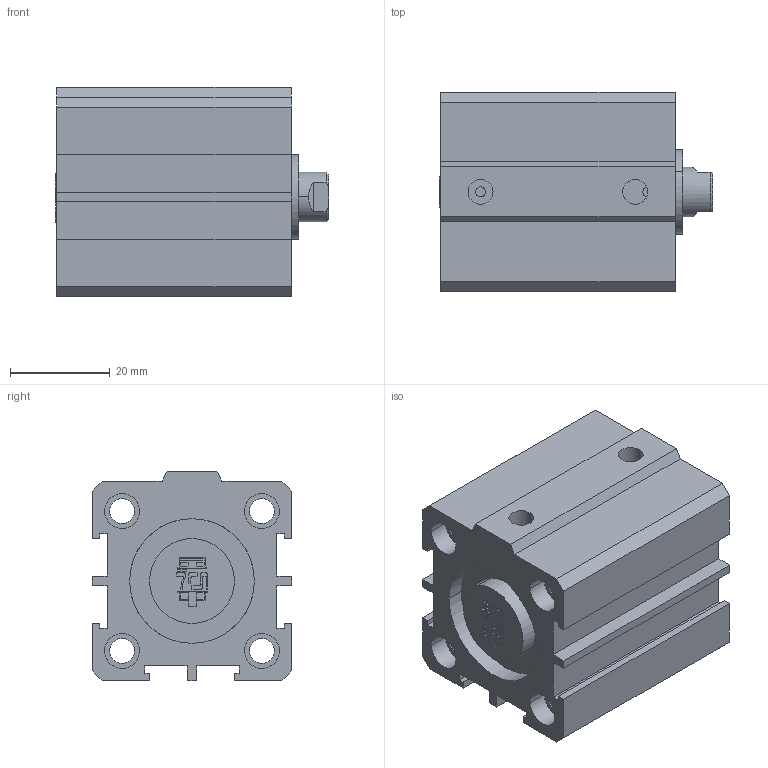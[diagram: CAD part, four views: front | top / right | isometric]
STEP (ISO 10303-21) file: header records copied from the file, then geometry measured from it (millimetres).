
FILE_DESCRIPTION(('CATIA V5 STEP Exchange'),'2;1');
FILE_NAME('D:\PDA\PDA-STP\PDA 25-10\PDA 25-10-15.stp','2016-02-02T10:35:33+00:00',('none'),('none'),'Version 5-6 Release 2012','CATIA V5 STEP AP203','none');
FILE_SCHEMA(('CONFIG_CONTROL_DESIGN'));
Length unit declared in the file: millimetre
Products named in the file (1): PDA 25-10-15-00
Assembly tree (2 placements, depth 2):
  PDA 25-10-15-00
    #58
    #6259
Bounding box: 54.75 x 40 x 42 mm (x, y, z)
Volume: 57933.4 mm3; surface area: 24588.2 mm2
Topology: 3 solids, 3 shells, 238 faces, 610 edges, 408 vertices
Faces by surface type: plane 166, cylinder 68, cone 4
Entity records: 6765 total; most frequent: ORIENTED_EDGE 1220, CARTESIAN_POINT 1208, DIRECTION 918, EDGE_CURVE 610, VECTOR 446, LINE 446, VERTEX_POINT 408, AXIS2_PLACEMENT_3D 314
